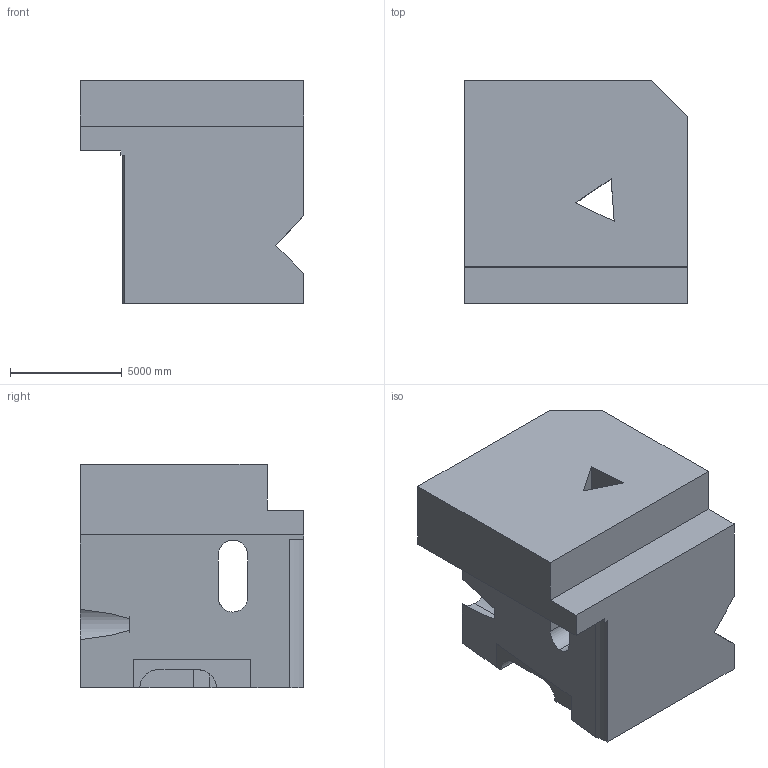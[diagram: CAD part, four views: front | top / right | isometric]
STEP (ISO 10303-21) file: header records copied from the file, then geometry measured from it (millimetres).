
FILE_DESCRIPTION (( 'STEP AP203' ), '1' );
FILE_NAME ('962.STEP', '2022-07-29T14:43:43', ( 'user' ), ( '' ), 'SwSTEP 2.0', 'SolidWorks 2021', '' );
FILE_SCHEMA (( 'CONFIG_CONTROL_DESIGN' ));
Length unit declared in the file: centimetre
Products named in the file (1): 962
Bounding box: 10000 x 10000 x 10000 mm (x, y, z)
Volume: 717347188938.7 mm3; surface area: 673246996.8 mm2
Topology: 1 solids, 1 shells, 37 faces, 117 edges, 78 vertices
Faces by surface type: plane 28, cylinder 9
Entity records: 1375 total; most frequent: CARTESIAN_POINT 272, ORIENTED_EDGE 234, DIRECTION 195, EDGE_CURVE 117, LINE 89, VECTOR 89, VERTEX_POINT 78, AXIS2_PLACEMENT_3D 53
